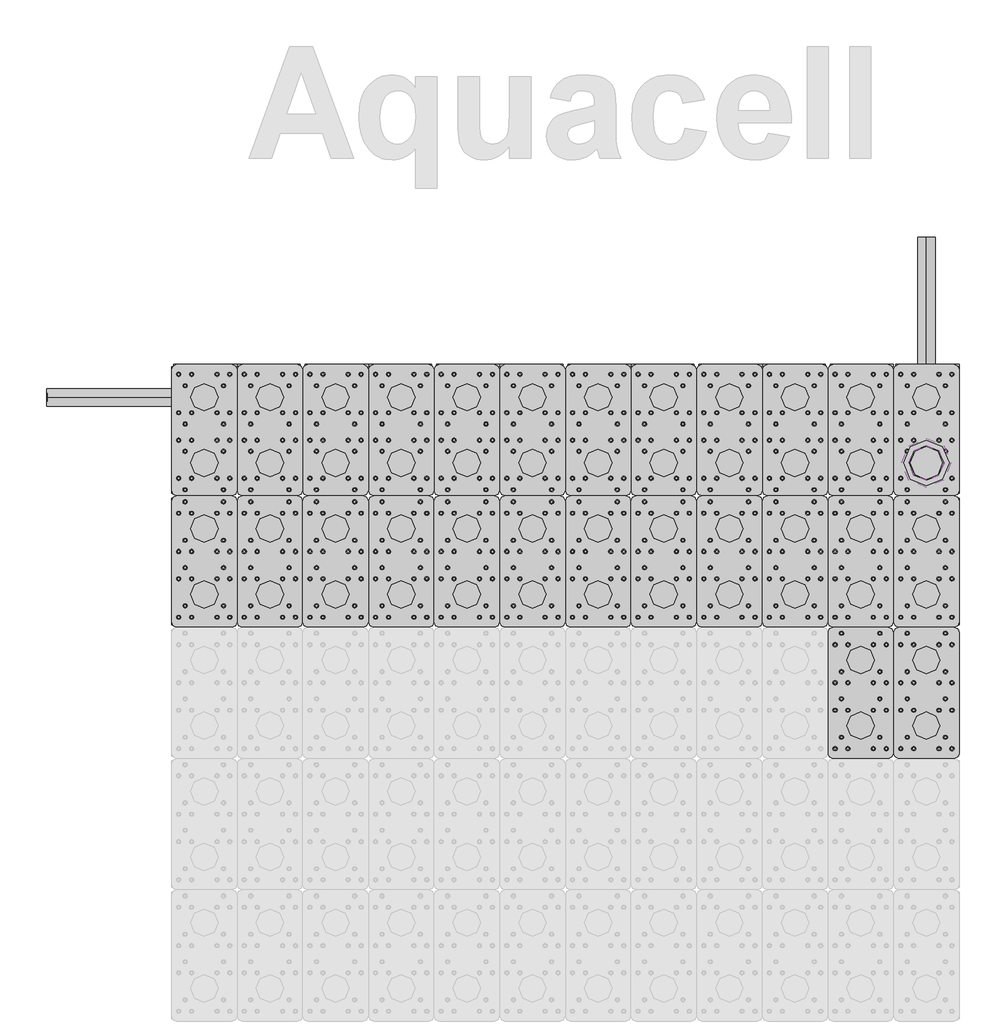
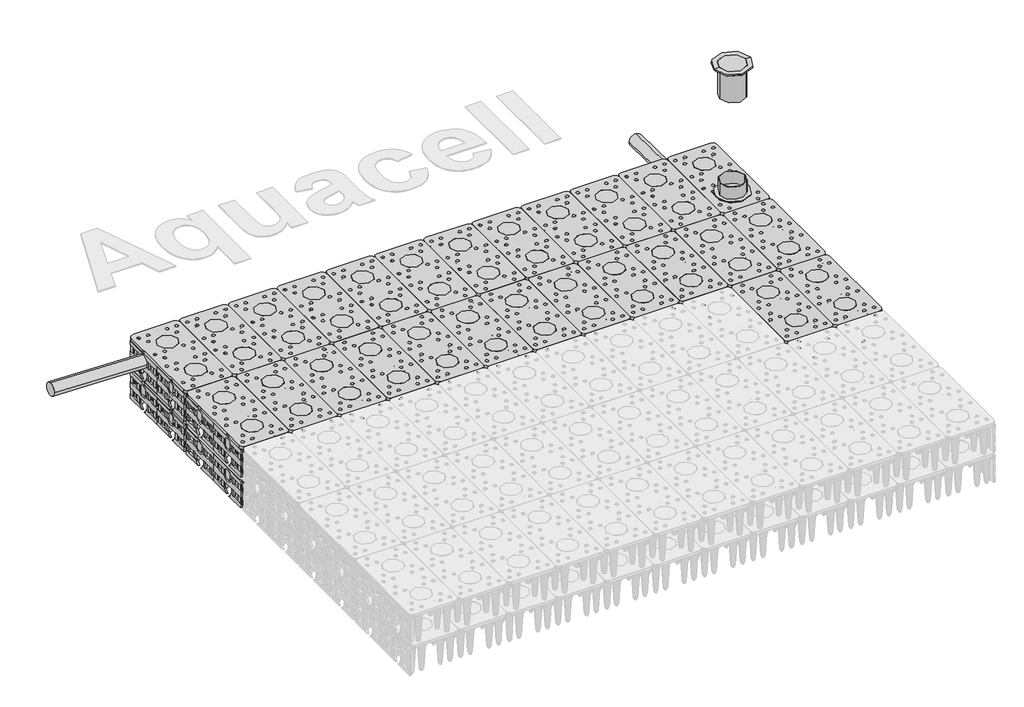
# One storey, part 5 of 6: 68 unitary equipment elements, 3 pipe fittings, 2 pipe segments.
"""IFC4 building model written with IfcOpenShell, lengths in millimetres."""

from ifc_helpers import new_model, si_unit, point, frame, frame_2d, origin, place, context, project, spatial, circle_curve, trimmed, segment, composite_curve, outline, extrude, transform, mapped, element, save
from components import pipe_fitting_96394642, pipe_fitting_315_pp_ral9200_0fd825c0, std_96d167fa, unitary_equipment_315_mm_28b5e6e1, std_5ed7479e, std_ece4d7e7, std_5641c3e3, std_cb78f788, std_054ed5cf, std_b7651e4d, std_94b0eaad, std_02d09377, std_4ac17607

model = new_model("IFC4")

# Units and contexts
model_context = context("Model", 3, world=origin())
ifc_project = project(units=[si_unit("LENGTHUNIT", "METRE", prefix="MILLI")], contexts=[model_context])

# Site, building, storey
site = spatial("IfcSite", under=ifc_project)
building = spatial("IfcBuilding", under=site)
storey = spatial("IfcBuildingStorey", under=building, Name="Aquacell", Elevation=-2300.0)

# Pipe fittings
placement = place(None, origin())
pipe_fitting_shape = pipe_fitting_96394642(model_context)
element("IfcPipeFitting", 1, ObjectType="Z_PIF_UN_Aquacell_NG_Telescopic_Pipe_PVC_Wavin_(nested) : DN315 L=375mm RAL8012", at=placement, inside=storey, context=model_context, shape_type="MappedRepresentation", body=[
    mapped(pipe_fitting_shape, transform((9386.051096, 9060.7779398, 165.0), x_axis=(-1.0000000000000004, 0.0, 0.0), y_axis=(0.0, -1.0, 0.0), z_axis=(0.0, 0.0, 1.0000000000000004))),
])
pipe_fitting_315_pp_ral9200_shape = pipe_fitting_315_pp_ral9200_0fd825c0(model_context)
element("IfcPipeFitting", 2, ObjectType="Z_PIF_UN_Aquacell_NG_Round_Cover_Wavin_(nested) : 315 PP, RAL9200", at=placement, inside=storey, context=model_context, shape_type="MappedRepresentation", body=[
    mapped(pipe_fitting_315_pp_ral9200_shape, transform((9386.051096, 9060.7779398, 200.0), x_axis=(-1.0000000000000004, 0.0, 0.0), y_axis=(0.0, -1.0, 0.0), z_axis=(0.0, 0.0, 1.0000000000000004))),
])
std_shape = std_96d167fa(model_context)
element("IfcPipeFitting", 3, ObjectType="Z_PIF_UN_Aquacell_NG_Telescopic_Frame_Wavin_(nested) : std", at=placement, inside=storey, context=model_context, shape_type="MappedRepresentation", body=[
    mapped(std_shape, transform((9386.051096, 9060.7779398, 200.0), x_axis=(-1.0000000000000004, 0.0, 0.0), y_axis=(0.0, -1.0, 0.0), z_axis=(0.0, 0.0, 1.0000000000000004))),
])

# Pipe segments
element("IfcPipeSegment", 4, ObjectType="Generic PVC", at=placement, inside=storey, context=model_context, shape_type="SweptSolid", body=[
    extrude(outline(composite_curve([segment(trimmed(circle_curve(frame_2d((0.0, -80.0)), 80.0), [point((80.0, -80.0))], [point((0.0, -160.0))], False, "CARTESIAN"), True, "CONTINUOUS"), segment(trimmed(circle_curve(frame_2d((0.0, -80.0)), 80.0), [point((0.0, -160.0))], [point((-80.0, -80.0))], False, "CARTESIAN"), True, "CONTINUOUS"), segment(trimmed(circle_curve(frame_2d((0.0, -80.0)), 80.0), [point((-80.0, -80.0))], [point((0.0, 0.0))], False, "CARTESIAN"), True, "CONTINUOUS"), segment(trimmed(circle_curve(frame_2d((0.0, -80.0)), 80.0), [point((0.0, 0.0))], [point((80.0, -80.0))], False, "CARTESIAN"), True, "CONTINUOUS")], self_intersect=False)), frame((9386.051096, 11123.4424464, -1971.3020339), z_axis=(0.0, -0.9997485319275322, 0.02242482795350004), x_axis=(1.0, 0.0, 0.0)), (0.0, 0.0, 1.0), 1261.1876688),
])
element("IfcPipeSegment", 5, ObjectType="Generic PVC", at=placement, inside=storey, context=model_context, shape_type="SweptSolid", body=[
    extrude(outline(composite_curve([segment(trimmed(circle_curve(frame_2d((0.0, 80.0)), 80.0), [point((0.0614009, 159.9999765))], [point((79.9999764, 79.938599))], False, "CARTESIAN"), True, "CONTINUOUS"), segment(trimmed(circle_curve(frame_2d((0.0, 80.0)), 80.0), [point((79.9999764, 79.938599))], [point((-0.061401, 2.36e-05))], False, "CARTESIAN"), True, "CONTINUOUS"), segment(trimmed(circle_curve(frame_2d((0.0, 80.0)), 80.0), [point((-0.061401, 2.36e-05))], [point((-79.9999765, 80.0614009))], False, "CARTESIAN"), True, "CONTINUOUS"), segment(trimmed(circle_curve(frame_2d((0.0, 80.0)), 80.0), [point((-79.9999765, 80.0614009))], [point((0.0614009, 159.9999765))], False, "CARTESIAN"), True, "CONTINUOUS")], self_intersect=False)), frame((2586.051096, 9580.7779633, -1622.9386225), z_axis=(-0.9996176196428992, 2.1214863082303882e-05, 0.02765165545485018), x_axis=(0.02765166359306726, 0.0007669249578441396, 0.9996173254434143)), (0.0, 0.0, 1.0), 1240.0),
])

# Unitary equipment
unitary_equipment_315_mm_shape = unitary_equipment_315_mm_28b5e6e1(model_context)
element("IfcUnitaryEquipment", 6, ObjectType="Z_ME_UN_Aquacell_NG_Kit_Shaft_Connector_Wavin_(nested) : 315 mm", at=placement, inside=storey, context=model_context, shape_type="MappedRepresentation", body=[
    mapped(unitary_equipment_315_mm_shape, transform((9386.051096, 9060.7779398, -1475.0), x_axis=(0.0, -1.0, 0.0), y_axis=(1.0000000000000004, 0.0, 0.0), z_axis=(0.0, 0.0, 1.0000000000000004))),
])
std_2_shape = std_5ed7479e(model_context)
element("IfcUnitaryEquipment", 7, ObjectType="Z_ME_UN_Aquacell_NG_Lateral_Side_Plate_Wavin_(nested) : std", at=placement, inside=storey, context=model_context, shape_type="MappedRepresentation", body=[
    mapped(std_2_shape, transform((2486.051096, 8760.7779398, -2306.0), x_axis=(0.0, -1.0000000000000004, 0.0), y_axis=(1.0000000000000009, 0.0, 0.0), z_axis=(0.0, 0.0, 1.0000000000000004))),
])
element("IfcUnitaryEquipment", 8, ObjectType="Z_ME_UN_Aquacell_NG_Lateral_Side_Plate_Wavin_(nested) : std", at=placement, inside=storey, context=model_context, shape_type="MappedRepresentation", body=[
    mapped(std_2_shape, transform((2486.051096, 8760.7779398, -1906.0), x_axis=(0.0, -1.0000000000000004, 0.0), y_axis=(1.0000000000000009, 0.0, 0.0), z_axis=(0.0, 0.0, 1.0000000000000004))),
])
element("IfcUnitaryEquipment", 9, ObjectType="Z_ME_UN_Aquacell_NG_Lateral_Side_Plate_Wavin_(nested) : std", at=placement, inside=storey, context=model_context, shape_type="MappedRepresentation", body=[
    mapped(std_2_shape, transform((8486.051096, 9960.7779398, -2306.0), x_axis=(-1.0000000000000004, 0.0, 0.0), y_axis=(0.0, -1.0000000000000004, 0.0), z_axis=(0.0, 0.0, 1.0))),
])
element("IfcUnitaryEquipment", 10, ObjectType="Z_ME_UN_Aquacell_NG_Lateral_Side_Plate_Wavin_(nested) : std", at=placement, inside=storey, context=model_context, shape_type="MappedRepresentation", body=[
    mapped(std_2_shape, transform((8486.051096, 9960.7779398, -1906.0), x_axis=(-1.0000000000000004, 0.0, 0.0), y_axis=(0.0, -1.0000000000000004, 0.0), z_axis=(0.0, 0.0, 1.0))),
])
element("IfcUnitaryEquipment", 11, ObjectType="Z_ME_UN_Aquacell_NG_Lateral_Side_Plate_Wavin_(nested) : std", at=placement, inside=storey, context=model_context, shape_type="MappedRepresentation", body=[
    mapped(std_2_shape, transform((9686.051096, 7560.7779398, -2306.0), x_axis=(0.0, 1.0000000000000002, 0.0), y_axis=(-1.0000000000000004, 0.0, 0.0), z_axis=(0.0, 0.0, 1.0000000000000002))),
])
element("IfcUnitaryEquipment", 12, ObjectType="Z_ME_UN_Aquacell_NG_Lateral_Side_Plate_Wavin_(nested) : std", at=placement, inside=storey, context=model_context, shape_type="MappedRepresentation", body=[
    mapped(std_2_shape, transform((9686.051096, 7560.7779398, -1906.0), x_axis=(0.0, 1.0000000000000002, 0.0), y_axis=(-1.0000000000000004, 0.0, 0.0), z_axis=(0.0, 0.0, 1.0000000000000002))),
])
element("IfcUnitaryEquipment", 13, ObjectType="Z_ME_UN_Aquacell_NG_Lateral_Side_Plate_Wavin_(nested) : std", at=placement, inside=storey, context=model_context, shape_type="MappedRepresentation", body=[
    mapped(std_2_shape, transform((9686.051096, 8760.7779398, -2306.0), x_axis=(0.0, 1.0000000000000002, 0.0), y_axis=(-1.0000000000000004, 0.0, 0.0), z_axis=(0.0, 0.0, 1.0000000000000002))),
])
element("IfcUnitaryEquipment", 14, ObjectType="Z_ME_UN_Aquacell_NG_Lateral_Side_Plate_Wavin_(nested) : std", at=placement, inside=storey, context=model_context, shape_type="MappedRepresentation", body=[
    mapped(std_2_shape, transform((9686.051096, 8760.7779398, -1906.0), x_axis=(0.0, 1.0000000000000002, 0.0), y_axis=(-1.0000000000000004, 0.0, 0.0), z_axis=(0.0, 0.0, 1.0000000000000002))),
])
element("IfcUnitaryEquipment", 15, ObjectType="Z_ME_UN_Aquacell_NG_Lateral_Side_Plate_Wavin_(nested) : std", at=placement, inside=storey, context=model_context, shape_type="MappedRepresentation", body=[
    mapped(std_2_shape, transform((4886.051096, 9960.7779398, -2306.0), x_axis=(-1.0000000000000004, 0.0, 0.0), y_axis=(0.0, -1.0000000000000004, 0.0), z_axis=(0.0, 0.0, 1.0))),
])
element("IfcUnitaryEquipment", 16, ObjectType="Z_ME_UN_Aquacell_NG_Lateral_Side_Plate_Wavin_(nested) : std", at=placement, inside=storey, context=model_context, shape_type="MappedRepresentation", body=[
    mapped(std_2_shape, transform((4886.051096, 9960.7779398, -1906.0), x_axis=(-1.0000000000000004, 0.0, 0.0), y_axis=(0.0, -1.0000000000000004, 0.0), z_axis=(0.0, 0.0, 1.0))),
])
element("IfcUnitaryEquipment", 17, ObjectType="Z_ME_UN_Aquacell_NG_Lateral_Side_Plate_Wavin_(nested) : std", at=placement, inside=storey, context=model_context, shape_type="MappedRepresentation", body=[
    mapped(std_2_shape, transform((6086.051096, 9960.7779398, -2306.0), x_axis=(-1.0000000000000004, 0.0, 0.0), y_axis=(0.0, -1.0000000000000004, 0.0), z_axis=(0.0, 0.0, 1.0))),
])
element("IfcUnitaryEquipment", 18, ObjectType="Z_ME_UN_Aquacell_NG_Lateral_Side_Plate_Wavin_(nested) : std", at=placement, inside=storey, context=model_context, shape_type="MappedRepresentation", body=[
    mapped(std_2_shape, transform((6086.051096, 9960.7779398, -1906.0), x_axis=(-1.0000000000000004, 0.0, 0.0), y_axis=(0.0, -1.0000000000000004, 0.0), z_axis=(0.0, 0.0, 1.0))),
])
element("IfcUnitaryEquipment", 19, ObjectType="Z_ME_UN_Aquacell_NG_Lateral_Side_Plate_Wavin_(nested) : std", at=placement, inside=storey, context=model_context, shape_type="MappedRepresentation", body=[
    mapped(std_2_shape, transform((7286.051096, 9960.7779398, -2306.0), x_axis=(-1.0000000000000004, 0.0, 0.0), y_axis=(0.0, -1.0000000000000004, 0.0), z_axis=(0.0, 0.0, 1.0))),
])
element("IfcUnitaryEquipment", 20, ObjectType="Z_ME_UN_Aquacell_NG_Lateral_Side_Plate_Wavin_(nested) : std", at=placement, inside=storey, context=model_context, shape_type="MappedRepresentation", body=[
    mapped(std_2_shape, transform((7286.051096, 9960.7779398, -1906.0), x_axis=(-1.0000000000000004, 0.0, 0.0), y_axis=(0.0, -1.0000000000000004, 0.0), z_axis=(0.0, 0.0, 1.0))),
])
element("IfcUnitaryEquipment", 21, ObjectType="Z_ME_UN_Aquacell_NG_Lateral_Side_Plate_Wavin_(nested) : std", at=placement, inside=storey, context=model_context, shape_type="MappedRepresentation", body=[
    mapped(std_2_shape, transform((3686.051096, 9960.7779398, -2306.0), x_axis=(-1.0000000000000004, 0.0, 0.0), y_axis=(0.0, -1.0000000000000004, 0.0), z_axis=(0.0, 0.0, 1.0))),
])
element("IfcUnitaryEquipment", 22, ObjectType="Z_ME_UN_Aquacell_NG_Lateral_Side_Plate_Wavin_(nested) : std", at=placement, inside=storey, context=model_context, shape_type="MappedRepresentation", body=[
    mapped(std_2_shape, transform((3686.051096, 9960.7779398, -1906.0), x_axis=(-1.0000000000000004, 0.0, 0.0), y_axis=(0.0, -1.0000000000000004, 0.0), z_axis=(0.0, 0.0, 1.0))),
])
std_3_shape = std_ece4d7e7(model_context)
std_4_shape = std_5641c3e3(model_context)
element("IfcUnitaryEquipment", 23, ObjectType="Z_ME_UN_Aquacell_NG_Infiltration_Unit_Wavin_(nested) : std", at=placement, inside=storey, context=model_context, shape_type="MappedRepresentation", body=[
    mapped(std_3_shape, transform((2486.051096, 9960.7779398, -2475.0), x_axis=(0.0, -1.0000000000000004, 0.0), y_axis=(1.0000000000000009, 0.0, 0.0), z_axis=(0.0, 0.0, 1.0000000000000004))),
    mapped(std_4_shape, transform((2486.051096, 9960.7779398, -2475.0), x_axis=(0.0, -1.0000000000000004, 0.0), y_axis=(1.0000000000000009, 0.0, 0.0), z_axis=(0.0, 0.0, 1.0000000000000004))),
])
element("IfcUnitaryEquipment", 24, ObjectType="Z_ME_UN_Aquacell_NG_Infiltration_Unit_Wavin_(nested) : std", at=placement, inside=storey, context=model_context, shape_type="MappedRepresentation", body=[
    mapped(std_3_shape, transform((9686.051096, 6360.7779398, -2475.0), x_axis=(0.0, 1.0, 0.0), y_axis=(-1.0000000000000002, 0.0, 0.0), z_axis=(0.0, 0.0, 1.0000000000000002))),
    mapped(std_4_shape, transform((9686.051096, 6360.7779398, -2475.0), x_axis=(0.0, 1.0, 0.0), y_axis=(-1.0000000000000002, 0.0, 0.0), z_axis=(0.0, 0.0, 1.0000000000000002))),
])
element("IfcUnitaryEquipment", 25, ObjectType="Z_ME_UN_Aquacell_NG_Infiltration_Unit_Wavin_(nested) : std", at=placement, inside=storey, context=model_context, shape_type="MappedRepresentation", body=[
    mapped(std_3_shape, transform((9686.051096, 7560.7779398, -2475.0), x_axis=(0.0, 1.0, 0.0), y_axis=(-1.0000000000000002, 0.0, 0.0), z_axis=(0.0, 0.0, 1.0000000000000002))),
    mapped(std_4_shape, transform((9686.051096, 7560.7779398, -2475.0), x_axis=(0.0, 1.0, 0.0), y_axis=(-1.0000000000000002, 0.0, 0.0), z_axis=(0.0, 0.0, 1.0000000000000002))),
])
element("IfcUnitaryEquipment", 26, ObjectType="Z_ME_UN_Aquacell_NG_Infiltration_Unit_Wavin_(nested) : std", at=placement, inside=storey, context=model_context, shape_type="MappedRepresentation", body=[
    mapped(std_3_shape, transform((9086.051096, 6360.7779398, -2475.0), x_axis=(0.0, 1.0, 0.0), y_axis=(-1.0000000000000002, 0.0, 0.0), z_axis=(0.0, 0.0, 1.0000000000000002))),
    mapped(std_4_shape, transform((9086.051096, 6360.7779398, -2475.0), x_axis=(0.0, 1.0, 0.0), y_axis=(-1.0000000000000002, 0.0, 0.0), z_axis=(0.0, 0.0, 1.0000000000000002))),
])
element("IfcUnitaryEquipment", 27, ObjectType="Z_ME_UN_Aquacell_NG_Infiltration_Unit_Wavin_(nested) : std", at=placement, inside=storey, context=model_context, shape_type="MappedRepresentation", body=[
    mapped(std_3_shape, transform((9086.051096, 7560.7779398, -2475.0), x_axis=(0.0, 1.0, 0.0), y_axis=(-1.0000000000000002, 0.0, 0.0), z_axis=(0.0, 0.0, 1.0000000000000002))),
    mapped(std_4_shape, transform((9086.051096, 7560.7779398, -2475.0), x_axis=(0.0, 1.0, 0.0), y_axis=(-1.0000000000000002, 0.0, 0.0), z_axis=(0.0, 0.0, 1.0000000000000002))),
])
element("IfcUnitaryEquipment", 28, ObjectType="Z_ME_UN_Aquacell_NG_Infiltration_Unit_Wavin_(nested) : std", at=placement, inside=storey, context=model_context, shape_type="MappedRepresentation", body=[
    mapped(std_3_shape, transform((8486.051096, 7560.7779398, -2475.0), x_axis=(0.0, 1.0, 0.0), y_axis=(-1.0000000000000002, 0.0, 0.0), z_axis=(0.0, 0.0, 1.0000000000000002))),
    mapped(std_4_shape, transform((8486.051096, 7560.7779398, -2475.0), x_axis=(0.0, 1.0, 0.0), y_axis=(-1.0000000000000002, 0.0, 0.0), z_axis=(0.0, 0.0, 1.0000000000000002))),
])
element("IfcUnitaryEquipment", 29, ObjectType="Z_ME_UN_Aquacell_NG_Infiltration_Unit_Wavin_(nested) : std", at=placement, inside=storey, context=model_context, shape_type="MappedRepresentation", body=[
    mapped(std_3_shape, transform((3086.051096, 9960.7779398, -2475.0), x_axis=(0.0, -1.0, 0.0), y_axis=(1.0000000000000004, 0.0, 0.0), z_axis=(0.0, 0.0, 1.0000000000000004))),
    mapped(std_4_shape, transform((3086.051096, 9960.7779398, -2475.0), x_axis=(0.0, -1.0, 0.0), y_axis=(1.0000000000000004, 0.0, 0.0), z_axis=(0.0, 0.0, 1.0000000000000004))),
])
element("IfcUnitaryEquipment", 30, ObjectType="Z_ME_UN_Aquacell_NG_Infiltration_Unit_Wavin_(nested) : std", at=placement, inside=storey, context=model_context, shape_type="MappedRepresentation", body=[
    mapped(std_3_shape, transform((3686.051096, 9960.7779398, -2475.0), x_axis=(0.0, -1.0, 0.0), y_axis=(1.0000000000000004, 0.0, 0.0), z_axis=(0.0, 0.0, 1.0000000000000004))),
    mapped(std_4_shape, transform((3686.051096, 9960.7779398, -2475.0), x_axis=(0.0, -1.0, 0.0), y_axis=(1.0000000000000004, 0.0, 0.0), z_axis=(0.0, 0.0, 1.0000000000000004))),
])
element("IfcUnitaryEquipment", 31, ObjectType="Z_ME_UN_Aquacell_NG_Infiltration_Unit_Wavin_(nested) : std", at=placement, inside=storey, context=model_context, shape_type="MappedRepresentation", body=[
    mapped(std_3_shape, transform((4286.051096, 9960.7779398, -2475.0), x_axis=(0.0, -1.0, 0.0), y_axis=(1.0000000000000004, 0.0, 0.0), z_axis=(0.0, 0.0, 1.0000000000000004))),
    mapped(std_4_shape, transform((4286.051096, 9960.7779398, -2475.0), x_axis=(0.0, -1.0, 0.0), y_axis=(1.0000000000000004, 0.0, 0.0), z_axis=(0.0, 0.0, 1.0000000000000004))),
])
element("IfcUnitaryEquipment", 32, ObjectType="Z_ME_UN_Aquacell_NG_Infiltration_Unit_Wavin_(nested) : std", at=placement, inside=storey, context=model_context, shape_type="MappedRepresentation", body=[
    mapped(std_3_shape, transform((4886.051096, 9960.7779398, -2475.0), x_axis=(0.0, -1.0, 0.0), y_axis=(1.0000000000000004, 0.0, 0.0), z_axis=(0.0, 0.0, 1.0000000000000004))),
    mapped(std_4_shape, transform((4886.051096, 9960.7779398, -2475.0), x_axis=(0.0, -1.0, 0.0), y_axis=(1.0000000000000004, 0.0, 0.0), z_axis=(0.0, 0.0, 1.0000000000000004))),
])
element("IfcUnitaryEquipment", 33, ObjectType="Z_ME_UN_Aquacell_NG_Infiltration_Unit_Wavin_(nested) : std", at=placement, inside=storey, context=model_context, shape_type="MappedRepresentation", body=[
    mapped(std_3_shape, transform((5486.051096, 9960.7779398, -2475.0), x_axis=(0.0, -1.0, 0.0), y_axis=(1.0000000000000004, 0.0, 0.0), z_axis=(0.0, 0.0, 1.0000000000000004))),
    mapped(std_4_shape, transform((5486.051096, 9960.7779398, -2475.0), x_axis=(0.0, -1.0, 0.0), y_axis=(1.0000000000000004, 0.0, 0.0), z_axis=(0.0, 0.0, 1.0000000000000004))),
])
element("IfcUnitaryEquipment", 34, ObjectType="Z_ME_UN_Aquacell_NG_Infiltration_Unit_Wavin_(nested) : std", at=placement, inside=storey, context=model_context, shape_type="MappedRepresentation", body=[
    mapped(std_3_shape, transform((6086.051096, 9960.7779398, -2475.0), x_axis=(0.0, -1.0, 0.0), y_axis=(1.0000000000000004, 0.0, 0.0), z_axis=(0.0, 0.0, 1.0000000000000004))),
    mapped(std_4_shape, transform((6086.051096, 9960.7779398, -2475.0), x_axis=(0.0, -1.0, 0.0), y_axis=(1.0000000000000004, 0.0, 0.0), z_axis=(0.0, 0.0, 1.0000000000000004))),
])
element("IfcUnitaryEquipment", 35, ObjectType="Z_ME_UN_Aquacell_NG_Infiltration_Unit_Wavin_(nested) : std", at=placement, inside=storey, context=model_context, shape_type="MappedRepresentation", body=[
    mapped(std_3_shape, transform((6686.051096, 9960.7779398, -2475.0), x_axis=(0.0, -1.0, 0.0), y_axis=(1.0000000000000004, 0.0, 0.0), z_axis=(0.0, 0.0, 1.0000000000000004))),
    mapped(std_4_shape, transform((6686.051096, 9960.7779398, -2475.0), x_axis=(0.0, -1.0, 0.0), y_axis=(1.0000000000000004, 0.0, 0.0), z_axis=(0.0, 0.0, 1.0000000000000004))),
])
element("IfcUnitaryEquipment", 36, ObjectType="Z_ME_UN_Aquacell_NG_Infiltration_Unit_Wavin_(nested) : std", at=placement, inside=storey, context=model_context, shape_type="MappedRepresentation", body=[
    mapped(std_3_shape, transform((7286.051096, 9960.7779398, -2475.0), x_axis=(0.0, -1.0, 0.0), y_axis=(1.0000000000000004, 0.0, 0.0), z_axis=(0.0, 0.0, 1.0000000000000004))),
    mapped(std_4_shape, transform((7286.051096, 9960.7779398, -2475.0), x_axis=(0.0, -1.0, 0.0), y_axis=(1.0000000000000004, 0.0, 0.0), z_axis=(0.0, 0.0, 1.0000000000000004))),
])
element("IfcUnitaryEquipment", 37, ObjectType="Z_ME_UN_Aquacell_NG_Infiltration_Unit_Wavin_(nested) : std", at=placement, inside=storey, context=model_context, shape_type="MappedRepresentation", body=[
    mapped(std_3_shape, transform((7886.051096, 9960.7779398, -2475.0), x_axis=(0.0, -1.0, 0.0), y_axis=(1.0000000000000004, 0.0, 0.0), z_axis=(0.0, 0.0, 1.0000000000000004))),
    mapped(std_4_shape, transform((7886.051096, 9960.7779398, -2475.0), x_axis=(0.0, -1.0, 0.0), y_axis=(1.0000000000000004, 0.0, 0.0), z_axis=(0.0, 0.0, 1.0000000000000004))),
])
element("IfcUnitaryEquipment", 38, ObjectType="Z_ME_UN_Aquacell_NG_Infiltration_Unit_Wavin_(nested) : std", at=placement, inside=storey, context=model_context, shape_type="MappedRepresentation", body=[
    mapped(std_3_shape, transform((8486.051096, 9960.7779398, -2475.0), x_axis=(0.0, -1.0, 0.0), y_axis=(1.0000000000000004, 0.0, 0.0), z_axis=(0.0, 0.0, 1.0000000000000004))),
    mapped(std_4_shape, transform((8486.051096, 9960.7779398, -2475.0), x_axis=(0.0, -1.0, 0.0), y_axis=(1.0000000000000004, 0.0, 0.0), z_axis=(0.0, 0.0, 1.0000000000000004))),
])
element("IfcUnitaryEquipment", 39, ObjectType="Z_ME_UN_Aquacell_NG_Infiltration_Unit_Wavin_(nested) : std", at=placement, inside=storey, context=model_context, shape_type="MappedRepresentation", body=[
    mapped(std_3_shape, transform((3086.051096, 8760.7779398, -2075.0), x_axis=(0.0, 1.0000000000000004, 0.0), y_axis=(-1.0000000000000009, 0.0, 0.0), z_axis=(0.0, 0.0, 1.0000000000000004))),
    mapped(std_4_shape, transform((3086.051096, 8760.7779398, -2075.0), x_axis=(0.0, 1.0000000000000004, 0.0), y_axis=(-1.0000000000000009, 0.0, 0.0), z_axis=(0.0, 0.0, 1.0000000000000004))),
])
element("IfcUnitaryEquipment", 40, ObjectType="Z_ME_UN_Aquacell_NG_Infiltration_Unit_Wavin_(nested) : std", at=placement, inside=storey, context=model_context, shape_type="MappedRepresentation", body=[
    mapped(std_3_shape, transform((9086.051096, 7560.7779398, -2075.0), x_axis=(0.0, -1.0, 0.0), y_axis=(1.0000000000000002, 0.0, 0.0), z_axis=(0.0, 0.0, 1.0000000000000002))),
    mapped(std_4_shape, transform((9086.051096, 7560.7779398, -2075.0), x_axis=(0.0, -1.0, 0.0), y_axis=(1.0000000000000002, 0.0, 0.0), z_axis=(0.0, 0.0, 1.0000000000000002))),
])
element("IfcUnitaryEquipment", 41, ObjectType="Z_ME_UN_Aquacell_NG_Infiltration_Unit_Wavin_(nested) : std", at=placement, inside=storey, context=model_context, shape_type="MappedRepresentation", body=[
    mapped(std_3_shape, transform((9086.051096, 8760.7779398, -2075.0), x_axis=(0.0, -1.0, 0.0), y_axis=(1.0000000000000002, 0.0, 0.0), z_axis=(0.0, 0.0, 1.0000000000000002))),
    mapped(std_4_shape, transform((9086.051096, 8760.7779398, -2075.0), x_axis=(0.0, -1.0, 0.0), y_axis=(1.0000000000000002, 0.0, 0.0), z_axis=(0.0, 0.0, 1.0000000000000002))),
])
element("IfcUnitaryEquipment", 42, ObjectType="Z_ME_UN_Aquacell_NG_Infiltration_Unit_Wavin_(nested) : std", at=placement, inside=storey, context=model_context, shape_type="MappedRepresentation", body=[
    mapped(std_3_shape, transform((8486.051096, 7560.7779398, -2075.0), x_axis=(0.0, -1.0, 0.0), y_axis=(1.0000000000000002, 0.0, 0.0), z_axis=(0.0, 0.0, 1.0000000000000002))),
    mapped(std_4_shape, transform((8486.051096, 7560.7779398, -2075.0), x_axis=(0.0, -1.0, 0.0), y_axis=(1.0000000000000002, 0.0, 0.0), z_axis=(0.0, 0.0, 1.0000000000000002))),
])
element("IfcUnitaryEquipment", 43, ObjectType="Z_ME_UN_Aquacell_NG_Infiltration_Unit_Wavin_(nested) : std", at=placement, inside=storey, context=model_context, shape_type="MappedRepresentation", body=[
    mapped(std_3_shape, transform((8486.051096, 8760.7779398, -2075.0), x_axis=(0.0, -1.0, 0.0), y_axis=(1.0000000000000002, 0.0, 0.0), z_axis=(0.0, 0.0, 1.0000000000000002))),
    mapped(std_4_shape, transform((8486.051096, 8760.7779398, -2075.0), x_axis=(0.0, -1.0, 0.0), y_axis=(1.0000000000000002, 0.0, 0.0), z_axis=(0.0, 0.0, 1.0000000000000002))),
])
element("IfcUnitaryEquipment", 44, ObjectType="Z_ME_UN_Aquacell_NG_Infiltration_Unit_Wavin_(nested) : std", at=placement, inside=storey, context=model_context, shape_type="MappedRepresentation", body=[
    mapped(std_3_shape, transform((7886.051096, 8760.7779398, -2075.0), x_axis=(0.0, -1.0, 0.0), y_axis=(1.0000000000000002, 0.0, 0.0), z_axis=(0.0, 0.0, 1.0000000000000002))),
    mapped(std_4_shape, transform((7886.051096, 8760.7779398, -2075.0), x_axis=(0.0, -1.0, 0.0), y_axis=(1.0000000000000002, 0.0, 0.0), z_axis=(0.0, 0.0, 1.0000000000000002))),
])
element("IfcUnitaryEquipment", 45, ObjectType="Z_ME_UN_Aquacell_NG_Infiltration_Unit_Wavin_(nested) : std", at=placement, inside=storey, context=model_context, shape_type="MappedRepresentation", body=[
    mapped(std_3_shape, transform((7286.051096, 8760.7779398, -2075.0), x_axis=(0.0, -1.0, 0.0), y_axis=(1.0000000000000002, 0.0, 0.0), z_axis=(0.0, 0.0, 1.0000000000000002))),
    mapped(std_4_shape, transform((7286.051096, 8760.7779398, -2075.0), x_axis=(0.0, -1.0, 0.0), y_axis=(1.0000000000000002, 0.0, 0.0), z_axis=(0.0, 0.0, 1.0000000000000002))),
])
element("IfcUnitaryEquipment", 46, ObjectType="Z_ME_UN_Aquacell_NG_Infiltration_Unit_Wavin_(nested) : std", at=placement, inside=storey, context=model_context, shape_type="MappedRepresentation", body=[
    mapped(std_3_shape, transform((6686.051096, 8760.7779398, -2075.0), x_axis=(0.0, -1.0, 0.0), y_axis=(1.0000000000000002, 0.0, 0.0), z_axis=(0.0, 0.0, 1.0000000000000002))),
    mapped(std_4_shape, transform((6686.051096, 8760.7779398, -2075.0), x_axis=(0.0, -1.0, 0.0), y_axis=(1.0000000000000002, 0.0, 0.0), z_axis=(0.0, 0.0, 1.0000000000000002))),
])
element("IfcUnitaryEquipment", 47, ObjectType="Z_ME_UN_Aquacell_NG_Infiltration_Unit_Wavin_(nested) : std", at=placement, inside=storey, context=model_context, shape_type="MappedRepresentation", body=[
    mapped(std_3_shape, transform((6086.051096, 8760.7779398, -2075.0), x_axis=(0.0, -1.0, 0.0), y_axis=(1.0000000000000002, 0.0, 0.0), z_axis=(0.0, 0.0, 1.0000000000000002))),
    mapped(std_4_shape, transform((6086.051096, 8760.7779398, -2075.0), x_axis=(0.0, -1.0, 0.0), y_axis=(1.0000000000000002, 0.0, 0.0), z_axis=(0.0, 0.0, 1.0000000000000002))),
])
element("IfcUnitaryEquipment", 48, ObjectType="Z_ME_UN_Aquacell_NG_Infiltration_Unit_Wavin_(nested) : std", at=placement, inside=storey, context=model_context, shape_type="MappedRepresentation", body=[
    mapped(std_3_shape, transform((5486.051096, 8760.7779398, -2075.0), x_axis=(0.0, -1.0, 0.0), y_axis=(1.0000000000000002, 0.0, 0.0), z_axis=(0.0, 0.0, 1.0000000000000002))),
    mapped(std_4_shape, transform((5486.051096, 8760.7779398, -2075.0), x_axis=(0.0, -1.0, 0.0), y_axis=(1.0000000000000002, 0.0, 0.0), z_axis=(0.0, 0.0, 1.0000000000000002))),
])
element("IfcUnitaryEquipment", 49, ObjectType="Z_ME_UN_Aquacell_NG_Infiltration_Unit_Wavin_(nested) : std", at=placement, inside=storey, context=model_context, shape_type="MappedRepresentation", body=[
    mapped(std_3_shape, transform((4886.051096, 8760.7779398, -2075.0), x_axis=(0.0, -1.0, 0.0), y_axis=(1.0000000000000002, 0.0, 0.0), z_axis=(0.0, 0.0, 1.0000000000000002))),
    mapped(std_4_shape, transform((4886.051096, 8760.7779398, -2075.0), x_axis=(0.0, -1.0, 0.0), y_axis=(1.0000000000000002, 0.0, 0.0), z_axis=(0.0, 0.0, 1.0000000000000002))),
])
element("IfcUnitaryEquipment", 50, ObjectType="Z_ME_UN_Aquacell_NG_Infiltration_Unit_Wavin_(nested) : std", at=placement, inside=storey, context=model_context, shape_type="MappedRepresentation", body=[
    mapped(std_3_shape, transform((4286.051096, 8760.7779398, -2075.0), x_axis=(0.0, -1.0, 0.0), y_axis=(1.0000000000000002, 0.0, 0.0), z_axis=(0.0, 0.0, 1.0000000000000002))),
    mapped(std_4_shape, transform((4286.051096, 8760.7779398, -2075.0), x_axis=(0.0, -1.0, 0.0), y_axis=(1.0000000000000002, 0.0, 0.0), z_axis=(0.0, 0.0, 1.0000000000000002))),
])
element("IfcUnitaryEquipment", 51, ObjectType="Z_ME_UN_Aquacell_NG_Infiltration_Unit_Wavin_(nested) : std", at=placement, inside=storey, context=model_context, shape_type="MappedRepresentation", body=[
    mapped(std_3_shape, transform((3686.051096, 8760.7779398, -2075.0), x_axis=(0.0, -1.0, 0.0), y_axis=(1.0000000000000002, 0.0, 0.0), z_axis=(0.0, 0.0, 1.0000000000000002))),
    mapped(std_4_shape, transform((3686.051096, 8760.7779398, -2075.0), x_axis=(0.0, -1.0, 0.0), y_axis=(1.0000000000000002, 0.0, 0.0), z_axis=(0.0, 0.0, 1.0000000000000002))),
])
element("IfcUnitaryEquipment", 52, ObjectType="Z_ME_UN_Aquacell_NG_Infiltration_Unit_Wavin_(nested) : std", at=placement, inside=storey, context=model_context, shape_type="MappedRepresentation", body=[
    mapped(std_3_shape, transform((3086.051096, 8760.7779398, -2075.0), x_axis=(0.0, -1.0, 0.0), y_axis=(1.0000000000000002, 0.0, 0.0), z_axis=(0.0, 0.0, 1.0000000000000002))),
    mapped(std_4_shape, transform((3086.051096, 8760.7779398, -2075.0), x_axis=(0.0, -1.0, 0.0), y_axis=(1.0000000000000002, 0.0, 0.0), z_axis=(0.0, 0.0, 1.0000000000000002))),
])
element("IfcUnitaryEquipment", 53, ObjectType="Z_ME_UN_Aquacell_NG_Infiltration_Unit_Wavin_(nested) : std", at=placement, inside=storey, context=model_context, shape_type="MappedRepresentation", body=[
    mapped(std_3_shape, transform((2486.051096, 8760.7779398, -2075.0), x_axis=(0.0, -1.0, 0.0), y_axis=(1.0000000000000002, 0.0, 0.0), z_axis=(0.0, 0.0, 1.0000000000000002))),
    mapped(std_4_shape, transform((2486.051096, 8760.7779398, -2075.0), x_axis=(0.0, -1.0, 0.0), y_axis=(1.0000000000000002, 0.0, 0.0), z_axis=(0.0, 0.0, 1.0000000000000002))),
])
element("IfcUnitaryEquipment", 54, ObjectType="Z_ME_UN_Aquacell_NG_Infiltration_Unit_Wavin_(nested) : std", at=placement, inside=storey, context=model_context, shape_type="MappedRepresentation", body=[
    mapped(std_3_shape, transform((3686.051096, 8760.7779398, -2075.0), x_axis=(0.0, 1.0, 0.0), y_axis=(-1.0000000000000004, 0.0, 0.0), z_axis=(0.0, 0.0, 1.0000000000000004))),
    mapped(std_4_shape, transform((3686.051096, 8760.7779398, -2075.0), x_axis=(0.0, 1.0, 0.0), y_axis=(-1.0000000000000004, 0.0, 0.0), z_axis=(0.0, 0.0, 1.0000000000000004))),
])
element("IfcUnitaryEquipment", 55, ObjectType="Z_ME_UN_Aquacell_NG_Infiltration_Unit_Wavin_(nested) : std", at=placement, inside=storey, context=model_context, shape_type="MappedRepresentation", body=[
    mapped(std_3_shape, transform((4286.051096, 8760.7779398, -2075.0), x_axis=(0.0, 1.0, 0.0), y_axis=(-1.0000000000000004, 0.0, 0.0), z_axis=(0.0, 0.0, 1.0000000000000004))),
    mapped(std_4_shape, transform((4286.051096, 8760.7779398, -2075.0), x_axis=(0.0, 1.0, 0.0), y_axis=(-1.0000000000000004, 0.0, 0.0), z_axis=(0.0, 0.0, 1.0000000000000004))),
])
element("IfcUnitaryEquipment", 56, ObjectType="Z_ME_UN_Aquacell_NG_Infiltration_Unit_Wavin_(nested) : std", at=placement, inside=storey, context=model_context, shape_type="MappedRepresentation", body=[
    mapped(std_3_shape, transform((4886.051096, 8760.7779398, -2075.0), x_axis=(0.0, 1.0, 0.0), y_axis=(-1.0000000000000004, 0.0, 0.0), z_axis=(0.0, 0.0, 1.0000000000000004))),
    mapped(std_4_shape, transform((4886.051096, 8760.7779398, -2075.0), x_axis=(0.0, 1.0, 0.0), y_axis=(-1.0000000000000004, 0.0, 0.0), z_axis=(0.0, 0.0, 1.0000000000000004))),
])
element("IfcUnitaryEquipment", 57, ObjectType="Z_ME_UN_Aquacell_NG_Infiltration_Unit_Wavin_(nested) : std", at=placement, inside=storey, context=model_context, shape_type="MappedRepresentation", body=[
    mapped(std_3_shape, transform((5486.051096, 8760.7779398, -2075.0), x_axis=(0.0, 1.0, 0.0), y_axis=(-1.0000000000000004, 0.0, 0.0), z_axis=(0.0, 0.0, 1.0000000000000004))),
    mapped(std_4_shape, transform((5486.051096, 8760.7779398, -2075.0), x_axis=(0.0, 1.0, 0.0), y_axis=(-1.0000000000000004, 0.0, 0.0), z_axis=(0.0, 0.0, 1.0000000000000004))),
])
element("IfcUnitaryEquipment", 58, ObjectType="Z_ME_UN_Aquacell_NG_Infiltration_Unit_Wavin_(nested) : std", at=placement, inside=storey, context=model_context, shape_type="MappedRepresentation", body=[
    mapped(std_3_shape, transform((6086.051096, 8760.7779398, -2075.0), x_axis=(0.0, 1.0, 0.0), y_axis=(-1.0000000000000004, 0.0, 0.0), z_axis=(0.0, 0.0, 1.0000000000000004))),
    mapped(std_4_shape, transform((6086.051096, 8760.7779398, -2075.0), x_axis=(0.0, 1.0, 0.0), y_axis=(-1.0000000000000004, 0.0, 0.0), z_axis=(0.0, 0.0, 1.0000000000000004))),
])
element("IfcUnitaryEquipment", 59, ObjectType="Z_ME_UN_Aquacell_NG_Infiltration_Unit_Wavin_(nested) : std", at=placement, inside=storey, context=model_context, shape_type="MappedRepresentation", body=[
    mapped(std_3_shape, transform((6686.051096, 8760.7779398, -2075.0), x_axis=(0.0, 1.0, 0.0), y_axis=(-1.0000000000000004, 0.0, 0.0), z_axis=(0.0, 0.0, 1.0000000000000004))),
    mapped(std_4_shape, transform((6686.051096, 8760.7779398, -2075.0), x_axis=(0.0, 1.0, 0.0), y_axis=(-1.0000000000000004, 0.0, 0.0), z_axis=(0.0, 0.0, 1.0000000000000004))),
])
element("IfcUnitaryEquipment", 60, ObjectType="Z_ME_UN_Aquacell_NG_Infiltration_Unit_Wavin_(nested) : std", at=placement, inside=storey, context=model_context, shape_type="MappedRepresentation", body=[
    mapped(std_3_shape, transform((7286.051096, 8760.7779398, -2075.0), x_axis=(0.0, 1.0, 0.0), y_axis=(-1.0000000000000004, 0.0, 0.0), z_axis=(0.0, 0.0, 1.0000000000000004))),
    mapped(std_4_shape, transform((7286.051096, 8760.7779398, -2075.0), x_axis=(0.0, 1.0, 0.0), y_axis=(-1.0000000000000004, 0.0, 0.0), z_axis=(0.0, 0.0, 1.0000000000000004))),
])
element("IfcUnitaryEquipment", 61, ObjectType="Z_ME_UN_Aquacell_NG_Infiltration_Unit_Wavin_(nested) : std", at=placement, inside=storey, context=model_context, shape_type="MappedRepresentation", body=[
    mapped(std_3_shape, transform((7886.051096, 8760.7779398, -2075.0), x_axis=(0.0, 1.0, 0.0), y_axis=(-1.0000000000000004, 0.0, 0.0), z_axis=(0.0, 0.0, 1.0000000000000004))),
    mapped(std_4_shape, transform((7886.051096, 8760.7779398, -2075.0), x_axis=(0.0, 1.0, 0.0), y_axis=(-1.0000000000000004, 0.0, 0.0), z_axis=(0.0, 0.0, 1.0000000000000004))),
])
element("IfcUnitaryEquipment", 62, ObjectType="Z_ME_UN_Aquacell_NG_Infiltration_Unit_Wavin_(nested) : std", at=placement, inside=storey, context=model_context, shape_type="MappedRepresentation", body=[
    mapped(std_3_shape, transform((8486.051096, 8760.7779398, -2075.0), x_axis=(0.0, 1.0, 0.0), y_axis=(-1.0000000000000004, 0.0, 0.0), z_axis=(0.0, 0.0, 1.0000000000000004))),
    mapped(std_4_shape, transform((8486.051096, 8760.7779398, -2075.0), x_axis=(0.0, 1.0, 0.0), y_axis=(-1.0000000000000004, 0.0, 0.0), z_axis=(0.0, 0.0, 1.0000000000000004))),
])
element("IfcUnitaryEquipment", 63, ObjectType="Z_ME_UN_Aquacell_NG_Infiltration_Unit_Wavin_(nested) : std", at=placement, inside=storey, context=model_context, shape_type="MappedRepresentation", body=[
    mapped(std_3_shape, transform((9086.051096, 8760.7779398, -2075.0), x_axis=(0.0, 1.0, 0.0), y_axis=(-1.0000000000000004, 0.0, 0.0), z_axis=(0.0, 0.0, 1.0000000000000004))),
    mapped(std_4_shape, transform((9086.051096, 8760.7779398, -2075.0), x_axis=(0.0, 1.0, 0.0), y_axis=(-1.0000000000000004, 0.0, 0.0), z_axis=(0.0, 0.0, 1.0000000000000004))),
])
std_5_shape = std_cb78f788(model_context)
element("IfcUnitaryEquipment", 64, ObjectType="Z_ME_UN_Aquacell_NG_Infiltration_Unit_Wavin_(nested) : std", at=placement, inside=storey, context=model_context, shape_type="MappedRepresentation", body=[
    mapped(std_5_shape, transform((9086.051096, 9960.7779398, -2475.0), x_axis=(0.0, -1.0, 0.0), y_axis=(1.0000000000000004, 0.0, 0.0), z_axis=(0.0, 0.0, 1.0000000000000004))),
    mapped(std_4_shape, transform((9086.051096, 9960.7779398, -2475.0), x_axis=(0.0, -1.0, 0.0), y_axis=(1.0000000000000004, 0.0, 0.0), z_axis=(0.0, 0.0, 1.0000000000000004))),
])
std_6_shape = std_054ed5cf(model_context)
element("IfcUnitaryEquipment", 65, ObjectType="Z_ME_UN_Aquacell_NG_Infiltration_Unit_Wavin_(nested) : std", at=placement, inside=storey, context=model_context, shape_type="MappedRepresentation", body=[
    mapped(std_3_shape, transform((9686.051096, 8760.7779398, -2075.0), x_axis=(0.0, 1.0, 0.0), y_axis=(-1.0000000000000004, 0.0, 0.0), z_axis=(0.0, 0.0, 1.0000000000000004))),
    mapped(std_6_shape, transform((9686.051096, 8760.7779398, -2075.0), x_axis=(0.0, 1.0, 0.0), y_axis=(-1.0000000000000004, 0.0, 0.0), z_axis=(0.0, 0.0, 1.0000000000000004))),
])
std_7_shape = std_b7651e4d(model_context)
element("IfcUnitaryEquipment", 66, ObjectType="Z_ME_UN_Aquacell_NG_Lateral_Side_Plate_Wavin_(nested) : std", at=placement, inside=storey, context=model_context, shape_type="MappedRepresentation", body=[
    mapped(std_7_shape, transform((2486.051096, 9960.7779398, -2306.0), x_axis=(0.0, -1.0000000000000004, 0.0), y_axis=(1.0000000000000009, 0.0, 0.0), z_axis=(0.0, 0.0, 1.0000000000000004))),
])
std_8_shape = std_94b0eaad(model_context)
element("IfcUnitaryEquipment", 67, ObjectType="Z_ME_UN_Aquacell_NG_Lateral_Side_Plate_Wavin_(nested) : std", at=placement, inside=storey, context=model_context, shape_type="MappedRepresentation", body=[
    mapped(std_8_shape, transform((9686.051096, 9960.7779398, -2306.0), x_axis=(-1.0000000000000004, 0.0, 0.0), y_axis=(0.0, -1.0000000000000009, 0.0), z_axis=(0.0, 0.0, 1.0000000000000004))),
])
std_9_shape = std_02d09377(model_context)
element("IfcUnitaryEquipment", 68, ObjectType="Z_ME_UN_Aquacell_NG_Lateral_Side_Plate_Wavin_(nested) : std", at=placement, inside=storey, context=model_context, shape_type="MappedRepresentation", body=[
    mapped(std_9_shape, transform((2486.051096, 9360.7779398, -1906.0), x_axis=(0.0, -1.0000000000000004, 0.0), y_axis=(1.0000000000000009, 0.0, 0.0), z_axis=(0.0, 0.0, 1.0000000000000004))),
])
element("IfcUnitaryEquipment", 69, ObjectType="Z_ME_UN_Aquacell_NG_Lateral_Side_Plate_Wavin_(nested) : std", at=placement, inside=storey, context=model_context, shape_type="MappedRepresentation", body=[
    mapped(std_9_shape, transform((2486.051096, 9360.7779398, -2306.0), x_axis=(0.0, -1.0000000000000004, 0.0), y_axis=(1.0000000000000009, 0.0, 0.0), z_axis=(0.0, 0.0, 1.0000000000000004))),
])
element("IfcUnitaryEquipment", 70, ObjectType="Z_ME_UN_Aquacell_NG_Lateral_Side_Plate_Wavin_(nested) : std", at=placement, inside=storey, context=model_context, shape_type="MappedRepresentation", body=[
    mapped(std_9_shape, transform((9086.051096, 9960.7779398, -1906.0), x_axis=(-1.0000000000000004, 0.0, 0.0), y_axis=(0.0, -1.0000000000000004, 0.0), z_axis=(0.0, 0.0, 1.0))),
])
element("IfcUnitaryEquipment", 71, ObjectType="Z_ME_UN_Aquacell_NG_Lateral_Side_Plate_Wavin_(nested) : std", at=placement, inside=storey, context=model_context, shape_type="MappedRepresentation", body=[
    mapped(std_9_shape, transform((9086.051096, 9960.7779398, -2306.0), x_axis=(-1.0000000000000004, 0.0, 0.0), y_axis=(0.0, -1.0000000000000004, 0.0), z_axis=(0.0, 0.0, 1.0))),
])
element("IfcUnitaryEquipment", 72, ObjectType="Z_ME_UN_Aquacell_NG_Lateral_Side_Plate_Wavin_(nested) : std", at=placement, inside=storey, context=model_context, shape_type="MappedRepresentation", body=[
    mapped(std_9_shape, transform((9686.051096, 9960.7779398, -1906.0), x_axis=(-1.0000000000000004, 0.0, 0.0), y_axis=(0.0, -1.0000000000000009, 0.0), z_axis=(0.0, 0.0, 1.0000000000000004))),
])
std_10_shape = std_4ac17607(model_context)
element("IfcUnitaryEquipment", 73, ObjectType="Z_ME_UN_Aquacell_NG_Lateral_Side_Plate_Wavin_(nested) : std", at=placement, inside=storey, context=model_context, shape_type="MappedRepresentation", body=[
    mapped(std_10_shape, transform((2486.051096, 9960.7779398, -1906.0), x_axis=(0.0, -1.0000000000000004, 0.0), y_axis=(1.0000000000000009, 0.0, 0.0), z_axis=(0.0, 0.0, 1.0000000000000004))),
])

save(model, "model.ifc")
